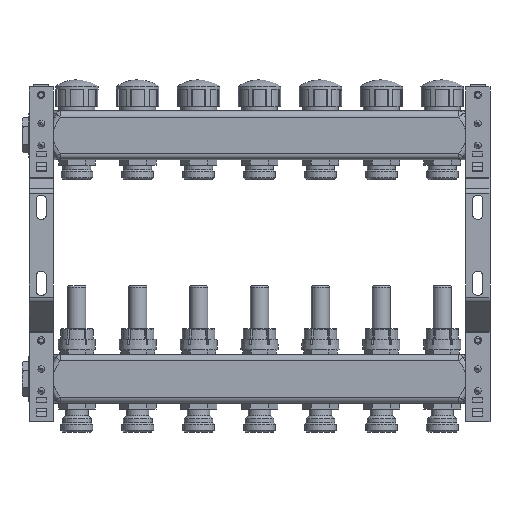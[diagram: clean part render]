
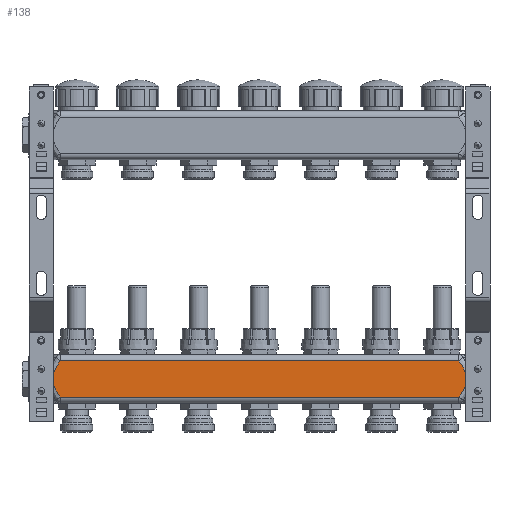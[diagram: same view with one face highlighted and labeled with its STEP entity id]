
A CAD part, front view. The second image highlights one B-rep face of the part: STEP entity #138.
In plain terms, the highlighted planar face has unit normal (0, -1, 0).
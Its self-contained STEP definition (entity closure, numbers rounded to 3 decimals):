
#138=ADVANCED_FACE('',(#2840),#2842,.T.);
#2840=FACE_BOUND('',#2841,.T.);
#2841=EDGE_LOOP('',(#15730,#15731,#15732,#15733));
#2842=PLANE('',#2843);
#2843=AXIS2_PLACEMENT_3D('',#2844,#2845,#2846);
#2844=CARTESIAN_POINT('',(1.7,46.5,-219.65));
#2845=DIRECTION('',(0.,-1.,0.));
#2846=DIRECTION('',(0.,0.,-1.));
#15730=ORIENTED_EDGE('',*,*,#23269,.T.);
#15731=ORIENTED_EDGE('',*,*,#23270,.F.);
#15732=ORIENTED_EDGE('',*,*,#22990,.T.);
#15733=ORIENTED_EDGE('',*,*,#23271,.T.);
#22990=EDGE_CURVE('',#26994,#26992,#26995,.T.);
#23269=EDGE_CURVE('',#27463,#27464,#27465,.T.);
#23270=EDGE_CURVE('',#26994,#27464,#27466,.T.);
#23271=EDGE_CURVE('',#26992,#27463,#27467,.T.);
#26992=VERTEX_POINT('',#35485);
#26994=VERTEX_POINT('',#35490);
#26995=B_SPLINE_CURVE_WITH_KNOTS('',3,
(#35491,#35492,#35493,#35494,#35495,#35496,#35497,#35498,#35499,#35500,#35501,#35502,
#35503,#35504,#35505,#35506,#35507,#35508,#35509,#35510,#35511,#35512,#35513,#35514),
.UNSPECIFIED.,.F.,.F.,
(4,1,1,1,1,1,1,1,1,1,1,1,1,1,1,1,1,1,1,1,1,4),
(0.,0.066,0.123,0.171,0.221,0.271,
0.322,0.369,0.413,0.45,0.485,
0.521,0.557,0.597,0.64,0.687,
0.738,0.789,0.841,0.891,0.945,
1.),
.UNSPECIFIED.);
#27463=VERTEX_POINT('',#37907);
#27464=VERTEX_POINT('',#37908);
#27465=B_SPLINE_CURVE_WITH_KNOTS('',3,
(#37909,#37910,#37911,#37912,#37913,#37914,#37915,#37916,#37917,#37918,#37919,#37920,
#37921,#37922,#37923,#37924,#37925,#37926,#37927,#37928,#37929,#37930,#37931,#37932),
.UNSPECIFIED.,.F.,.F.,
(4,1,1,1,1,1,1,1,1,1,1,1,1,1,1,1,1,1,1,1,1,4),
(0.,0.066,0.123,0.171,0.221,0.271,
0.322,0.369,0.413,0.45,0.485,
0.521,0.557,0.597,0.64,0.687,
0.738,0.789,0.841,0.891,0.945,
1.),
.UNSPECIFIED.);
#27466=LINE('',#37933,#37934);
#27467=LINE('',#37936,#37937);
#35485=CARTESIAN_POINT('',(25.634,46.5,-254.65));
#35490=CARTESIAN_POINT('',(25.634,46.5,-224.65));
#35491=CARTESIAN_POINT('',(25.634,46.5,-224.65));
#35492=CARTESIAN_POINT('',(25.196,46.5,-225.269));
#35493=CARTESIAN_POINT('',(24.401,46.5,-226.43));
#35494=CARTESIAN_POINT('',(23.362,46.5,-228.064));
#35495=CARTESIAN_POINT('',(22.485,46.5,-229.562));
#35496=CARTESIAN_POINT('',(21.717,46.5,-231.008));
#35497=CARTESIAN_POINT('',(21.012,46.5,-232.516));
#35498=CARTESIAN_POINT('',(20.421,46.5,-234.022));
#35499=CARTESIAN_POINT('',(19.968,46.5,-235.487));
#35500=CARTESIAN_POINT('',(19.669,46.5,-236.817));
#35501=CARTESIAN_POINT('',(19.494,46.5,-238.033));
#35502=CARTESIAN_POINT('',(19.414,46.5,-239.176));
#35503=CARTESIAN_POINT('',(19.421,46.5,-240.315));
#35504=CARTESIAN_POINT('',(19.518,46.5,-241.495));
#35505=CARTESIAN_POINT('',(19.72,46.5,-242.746));
#35506=CARTESIAN_POINT('',(20.047,46.5,-244.096));
#35507=CARTESIAN_POINT('',(20.52,46.5,-245.553));
#35508=CARTESIAN_POINT('',(21.134,46.5,-247.064));
#35509=CARTESIAN_POINT('',(21.87,46.5,-248.596));
#35510=CARTESIAN_POINT('',(22.685,46.5,-250.094));
#35511=CARTESIAN_POINT('',(23.586,46.5,-251.598));
#35512=CARTESIAN_POINT('',(24.565,46.5,-253.112));
#35513=CARTESIAN_POINT('',(25.27,46.5,-254.135));
#35514=CARTESIAN_POINT('',(25.634,46.5,-254.65));
#37907=CARTESIAN_POINT('',(352.766,46.5,-254.65));
#37908=CARTESIAN_POINT('',(352.766,46.5,-224.65));
#37909=CARTESIAN_POINT('',(352.766,46.5,-254.65));
#37910=CARTESIAN_POINT('',(353.204,46.5,-254.031));
#37911=CARTESIAN_POINT('',(353.999,46.5,-252.87));
#37912=CARTESIAN_POINT('',(355.038,46.5,-251.236));
#37913=CARTESIAN_POINT('',(355.915,46.5,-249.738));
#37914=CARTESIAN_POINT('',(356.683,46.5,-248.292));
#37915=CARTESIAN_POINT('',(357.388,46.5,-246.784));
#37916=CARTESIAN_POINT('',(357.979,46.5,-245.278));
#37917=CARTESIAN_POINT('',(358.432,46.5,-243.813));
#37918=CARTESIAN_POINT('',(358.731,46.5,-242.483));
#37919=CARTESIAN_POINT('',(358.906,46.5,-241.267));
#37920=CARTESIAN_POINT('',(358.986,46.5,-240.124));
#37921=CARTESIAN_POINT('',(358.979,46.5,-238.985));
#37922=CARTESIAN_POINT('',(358.882,46.5,-237.805));
#37923=CARTESIAN_POINT('',(358.68,46.5,-236.554));
#37924=CARTESIAN_POINT('',(358.353,46.5,-235.204));
#37925=CARTESIAN_POINT('',(357.88,46.5,-233.747));
#37926=CARTESIAN_POINT('',(357.266,46.5,-232.236));
#37927=CARTESIAN_POINT('',(356.53,46.5,-230.704));
#37928=CARTESIAN_POINT('',(355.715,46.5,-229.206));
#37929=CARTESIAN_POINT('',(354.814,46.5,-227.702));
#37930=CARTESIAN_POINT('',(353.835,46.5,-226.188));
#37931=CARTESIAN_POINT('',(353.13,46.5,-225.165));
#37932=CARTESIAN_POINT('',(352.766,46.5,-224.65));
#37933=CARTESIAN_POINT('',(25.634,46.5,-224.65));
#37934=VECTOR('',#37935,1.);
#37935=DIRECTION('',(1.,0.,0.));
#37936=CARTESIAN_POINT('',(25.634,46.5,-254.65));
#37937=VECTOR('',#37938,1.);
#37938=DIRECTION('',(1.,0.,0.));
